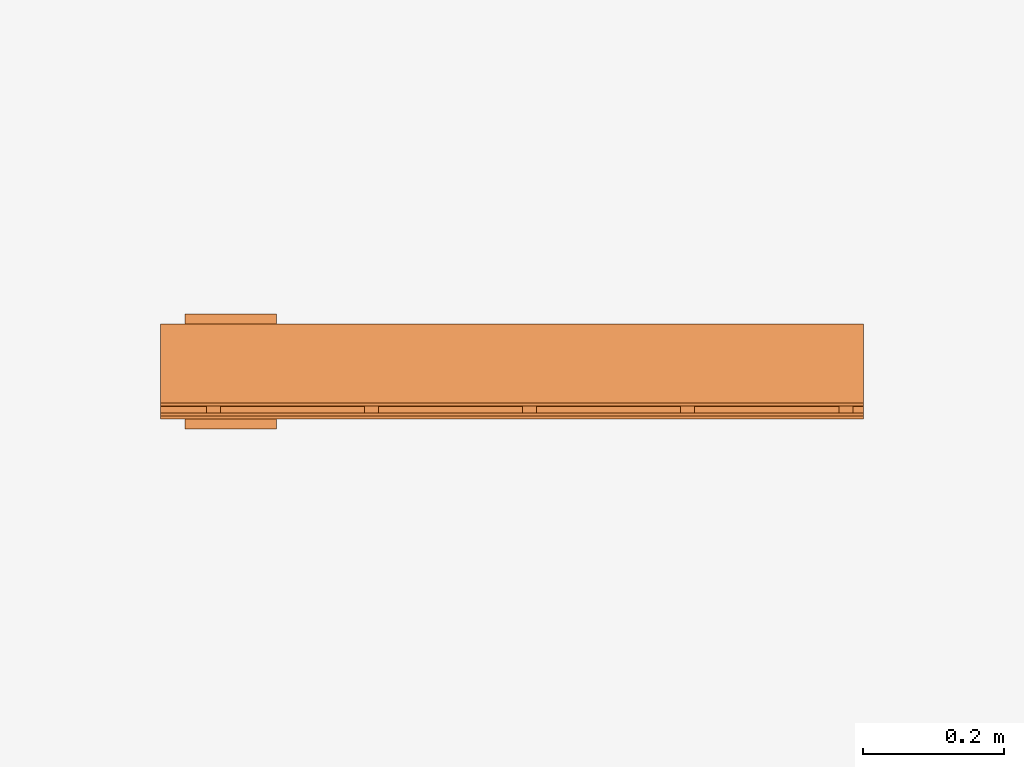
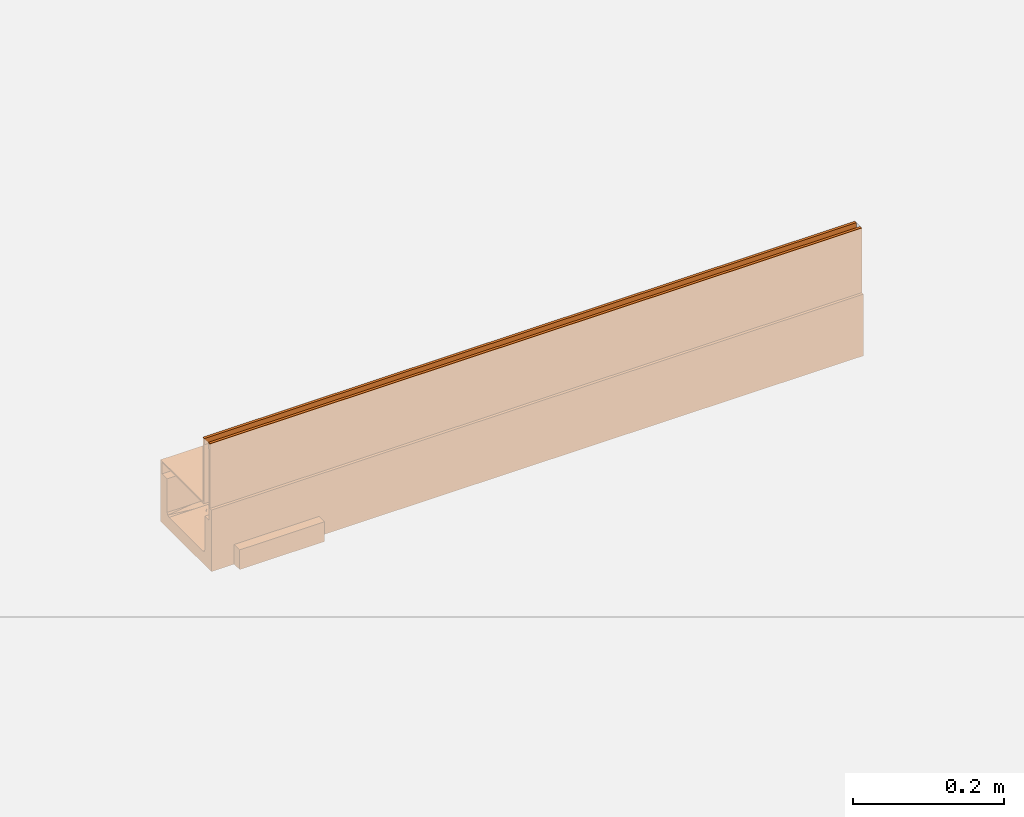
# One storey, part 2 of 2: 1 proxy.
"""IFC2X3 building model written with IfcOpenShell, lengths in millimetres."""

from ifc_helpers import new_model, entity, si_unit, converted_unit, direction, frame, origin, place, context, subcontext, project, spatial, faceted_brep, source, transform, mapped, material, material_list, element, save


model = new_model("IFC2X3")

# Units and contexts
model_context = context("Model", 3, precision=1e-06, world=origin(), true_north=direction((2.0, 6.12303176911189e-17, 1.0)))
context_of_model = context(None, 3, precision=1e-06, world=origin(), true_north=direction((2.0, 6.12303176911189e-17, 1.0)))
body_context = subcontext(model_context, "Body", "Model", "MODEL_VIEW")
ifc_project = project(units=[si_unit("LENGTHUNIT", "METRE", prefix="MILLI"), si_unit("AREAUNIT", "SQUARE_METRE", prefix="MILLI"), si_unit("VOLUMEUNIT", "CUBIC_METRE", prefix="MILLI"), converted_unit("PLANEANGLEUNIT", "DEGREE", entity("IfcRatioMeasure", 0.0174532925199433), si_unit("PLANEANGLEUNIT", "RADIAN"), dimensions=[0, 0, 0, 0, 0, 0, 0]), si_unit("TIMEUNIT", "SECOND")], contexts=[model_context, context_of_model])

# Site, building, storey
site_placement = place(None, origin())
site = spatial("IfcSite", under=ifc_project, at=site_placement, Name="Default", CompositionType="ELEMENT")
building_placement = place(site_placement, origin())
building = spatial("IfcBuilding", under=site, at=building_placement, CompositionType="ELEMENT")
storey_placement = place(building_placement, origin())
storey = spatial("IfcBuildingStorey", under=building, at=storey_placement, Name="Level 1", CompositionType="ELEMENT", Elevation=0.0)

# Proxy
ifc_material_1 = material(Name="Steel, Galvanized")
ifc_material_2 = material(Name="Plastic, Opaque Black")
ifc_material_3 = material(Name="Vienite® Synthetic Resin Concrete")
ifc_material_list = material_list([ifc_material_1, ifc_material_2, ifc_material_3])
shared_shape = source(origin(), body_context, "Body", "Brep", [
    faceted_brep([(63.249999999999, 15.0, -107.0), (63.249999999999, 17.0, -109.0), (63.249999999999, 33.0, -109.0), (63.249999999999, 35.0, -107.0), (63.249999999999, 17.0, -123.499999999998), (63.249999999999, 15.0, -125.499999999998), (63.249999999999, 33.0, -123.499999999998), (63.249999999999, 35.0, -125.499999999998), (-61.250000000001, 15.0, -125.499999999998), (-61.250000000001, 17.0, -123.499999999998), (-61.250000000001, 33.0, -123.499999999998), (-61.250000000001, 35.0, -125.499999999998), (-61.250000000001, 17.0, -109.0), (-61.250000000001, 15.0, -107.0), (-61.250000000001, 33.0, -109.0), (-61.250000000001, 35.0, -107.0)], [[[0, 1, 2, 3]], [[4, 1, 0, 5]], [[3, 2, 6, 7]], [[6, 4, 5, 7]], [[8, 9, 10, 11]], [[12, 9, 8, 13]], [[11, 10, 14, 15]], [[14, 12, 13, 15]], [[5, 0, 13, 8]], [[7, 5, 8, 11]], [[3, 7, 11, 15]], [[0, 3, 15, 13]], [[1, 4, 9, 12]], [[14, 2, 1, 12]], [[6, 2, 14, 10]], [[9, 4, 6, 10]]]),
    faceted_brep([(-47.2500000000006, 0.0, -10.0), (-47.2500000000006, 0.0, -107.0), (-45.2500000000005, 0.0, -105.0), (-45.2500000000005, 0.0, 0.0), (-49.2500000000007, 0.0, 0.0), (-49.2500000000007, 0.0, -10.0), (63.2499999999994, 0.0, -107.0), (63.2499999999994, 0.0, -105.0), (-45.2500000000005, 1000.0, -105.0), (63.2499999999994, 1000.0, -105.0), (63.2499999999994, 1000.0, -107.0), (-47.2500000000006, 1000.0, -107.0), (-47.2500000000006, 1000.0, -10.0), (-45.2500000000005, 1000.0, 0.0), (-49.2500000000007, 1000.0, -10.0), (-49.2500000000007, 1000.0, 0.0)], [[[0, 1, 2, 3]], [[4, 5, 0, 3]], [[6, 7, 2, 1]], [[8, 9, 10, 11]], [[12, 13, 8, 11]], [[12, 14, 15, 13]], [[0, 5, 14, 12]], [[11, 1, 0, 12]], [[6, 1, 11, 10]], [[9, 7, 6, 10]], [[8, 2, 7, 9]], [[3, 2, 8, 13]], [[15, 4, 3, 13]], [[5, 4, 15, 14]]]),
    faceted_brep([(-59.2500000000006, 1000.0, 0.0), (-59.2500000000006, 1000.0, -10.0), (-61.2500000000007, 1000.0, -10.0), (-63.2500000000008, 1000.0, 0.0), (-63.2500000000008, 1000.0, -125.499999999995), (-61.2500000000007, 1000.0, -125.499999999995), (-61.2500000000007, 0.0, -10.0), (-63.2500000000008, 0.0, 0.0), (-63.2500000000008, 0.0, -125.499999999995), (-61.2500000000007, 0.0, -125.499999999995), (-59.2500000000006, 0.0, 0.0), (-59.2500000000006, 0.0, -10.0)], [[[0, 1, 2, 3]], [[4, 3, 2, 5]], [[6, 7, 8, 9]], [[10, 7, 6, 11]], [[9, 8, 4, 5]], [[6, 9, 5, 2]], [[11, 6, 2, 1]], [[10, 11, 1, 0]], [[3, 7, 10, 0]], [[4, 8, 7, 3]]]),
    faceted_brep([(63.2499999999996, 465.0, -107.0), (63.2499999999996, 467.0, -109.0), (63.2499999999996, 483.0, -109.0), (63.2499999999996, 485.0, -107.0), (63.2499999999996, 467.0, -123.499999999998), (63.2499999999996, 465.0, -125.499999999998), (63.2499999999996, 483.0, -123.499999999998), (63.2499999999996, 485.0, -125.499999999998), (-61.2500000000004, 465.0, -125.499999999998), (-61.2500000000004, 467.0, -123.499999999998), (-61.2500000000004, 483.0, -123.499999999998), (-61.2500000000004, 485.0, -125.499999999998), (-61.2500000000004, 467.0, -109.0), (-61.2500000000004, 465.0, -107.0), (-61.2500000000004, 483.0, -109.0), (-61.2500000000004, 485.0, -107.0)], [[[0, 1, 2, 3]], [[4, 1, 0, 5]], [[3, 2, 6, 7]], [[6, 4, 5, 7]], [[8, 9, 10, 11]], [[12, 9, 8, 13]], [[11, 10, 14, 15]], [[14, 12, 13, 15]], [[5, 0, 13, 8]], [[7, 5, 8, 11]], [[3, 7, 11, 15]], [[0, 3, 15, 13]], [[1, 4, 9, 12]], [[2, 1, 12, 14]], [[6, 2, 14, 10]], [[4, 6, 10, 9]]]),
    faceted_brep([(63.2499999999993, 240.0, -107.0), (63.2499999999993, 242.0, -109.0), (63.2499999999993, 258.0, -109.0), (63.2499999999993, 260.0, -107.0), (63.2499999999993, 242.0, -123.499999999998), (63.2499999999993, 240.0, -125.499999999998), (63.2499999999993, 258.0, -123.499999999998), (63.2499999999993, 260.0, -125.499999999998), (-61.2500000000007, 240.0, -125.499999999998), (-61.2500000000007, 242.0, -123.499999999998), (-61.2500000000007, 258.0, -123.499999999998), (-61.2500000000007, 260.0, -125.499999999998), (-61.2500000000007, 242.0, -109.0), (-61.2500000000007, 240.0, -107.0), (-61.2500000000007, 258.0, -109.0), (-61.2500000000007, 260.0, -107.0)], [[[0, 1, 2, 3]], [[4, 1, 0, 5]], [[3, 2, 6, 7]], [[6, 4, 5, 7]], [[8, 9, 10, 11]], [[12, 9, 8, 13]], [[11, 10, 14, 15]], [[14, 12, 13, 15]], [[5, 0, 13, 8]], [[7, 5, 8, 11]], [[3, 7, 11, 15]], [[0, 3, 15, 13]], [[1, 4, 9, 12]], [[2, 1, 12, 14]], [[6, 2, 14, 10]], [[4, 6, 10, 9]]]),
    faceted_brep([(63.2500000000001, 915.0, -107.0), (63.2500000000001, 917.0, -109.0), (63.2500000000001, 933.0, -109.0), (63.2500000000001, 935.0, -107.0), (63.2500000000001, 917.0, -123.499999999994), (63.2500000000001, 915.0, -125.499999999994), (63.2500000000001, 933.0, -123.499999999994), (63.2500000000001, 935.0, -125.499999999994), (-61.2499999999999, 915.0, -125.499999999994), (-61.2499999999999, 917.0, -123.499999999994), (-61.2499999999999, 933.0, -123.499999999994), (-61.2499999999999, 935.0, -125.499999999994), (-61.2499999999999, 917.0, -109.0), (-61.2499999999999, 915.0, -107.0), (-61.2499999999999, 933.0, -109.0), (-61.2499999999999, 935.0, -107.0)], [[[0, 1, 2, 3]], [[4, 1, 0, 5]], [[3, 2, 6, 7]], [[6, 4, 5, 7]], [[8, 9, 10, 11]], [[12, 9, 8, 13]], [[11, 10, 14, 15]], [[14, 12, 13, 15]], [[5, 0, 13, 8]], [[11, 7, 5, 8]], [[3, 7, 11, 15]], [[13, 0, 3, 15]], [[1, 4, 9, 12]], [[2, 1, 12, 14]], [[6, 2, 14, 10]], [[4, 6, 10, 9]]]),
    faceted_brep([(63.2499999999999, 690.0, -107.0), (63.2499999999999, 692.0, -109.0), (63.2499999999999, 708.0, -109.0), (63.2499999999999, 710.0, -107.0), (63.2499999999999, 692.0, -123.499999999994), (63.2499999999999, 690.0, -125.499999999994), (63.2499999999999, 708.0, -123.499999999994), (63.2499999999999, 710.0, -125.499999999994), (-61.2500000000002, 690.0, -125.499999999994), (-61.2500000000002, 692.0, -123.499999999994), (-61.2500000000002, 708.0, -123.499999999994), (-61.2500000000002, 710.0, -125.499999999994), (-61.2500000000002, 692.0, -109.0), (-61.2500000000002, 690.0, -107.0), (-61.2500000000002, 708.0, -109.0), (-61.2500000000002, 710.0, -107.0)], [[[0, 1, 2, 3]], [[4, 1, 0, 5]], [[3, 2, 6, 7]], [[6, 4, 5, 7]], [[8, 9, 10, 11]], [[12, 9, 8, 13]], [[11, 10, 14, 15]], [[14, 12, 13, 15]], [[5, 0, 13, 8]], [[11, 7, 5, 8]], [[3, 7, 11, 15]], [[13, 0, 3, 15]], [[1, 4, 9, 12]], [[2, 1, 12, 14]], [[6, 2, 14, 10]], [[4, 6, 10, 9]]]),
    faceted_brep([(30.0, 951.961524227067, -205.0), (42.4264068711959, 942.426406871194, -205.0), (27.500000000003, 947.631397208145, -205.0), (14.2350474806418, 953.1259204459, -205.0), (0.0, 955.0, -205.0), (15.5291427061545, 957.955549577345, -205.0), (0.0, 960.0, -205.0), (-14.2350474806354, 953.1259204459, -205.0), (38.8908729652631, 938.890872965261, -205.0), (55.0, 900.0, -205.0), (53.1259204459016, 914.23504748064, -205.0), (57.955549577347, 915.529142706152, -205.0), (60.0, 900.0, -205.0), (51.9615242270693, 930.0, -205.0), (47.631397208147, 927.500000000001, -205.0), (-15.529142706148, 957.955549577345, -205.0), (-27.4999999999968, 947.631397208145, -205.0), (-38.8908729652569, 938.890872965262, -205.0), (-42.4264068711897, 942.426406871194, -205.0), (-30.0, 951.961524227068, -205.0), (-51.9615242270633, 930.0, -205.0), (-47.631397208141, 927.500000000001, -205.0), (-53.1259204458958, 914.23504748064, -205.0), (-55.0, 900.0, -205.0), (-57.9555495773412, 915.529142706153, -205.0), (-60.0, 900.0, -205.0), (-53.1259204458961, 885.764952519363, -205.0), (53.1259204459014, 885.764952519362, -205.0), (57.9555495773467, 884.470857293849, -205.0), (47.6313972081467, 872.500000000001, -205.0), (51.9615242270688, 870.0, -205.0), (38.8908729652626, 861.109127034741, -205.0), (42.4264068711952, 857.573593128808, -205.0), (27.5000000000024, 852.368602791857, -205.0), (30.0, 848.038475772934, -205.0), (14.235047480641, 846.874079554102, -205.0), (15.5291427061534, 842.044450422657, -205.0), (0.0, 845.0, -205.0), (0.0, 840.0, -205.0), (-14.2350474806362, 846.874079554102, -205.0), (-42.4264068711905, 857.573593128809, -205.0), (-51.9615242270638, 870.0, -205.0), (-47.6313972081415, 872.500000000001, -205.0), (-38.8908729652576, 861.109127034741, -205.0), (-57.9555495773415, 884.47085729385, -205.0), (-15.529142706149, 842.044450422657, -205.0), (-27.4999999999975, 852.368602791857, -205.0), (-30.0, 848.038475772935, -205.0), (30.0, 848.038475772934, -185.0), (42.4264068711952, 857.573593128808, -185.0), (27.5000000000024, 852.368602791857, -185.0), (14.235047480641, 846.874079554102, -185.0), (0.0, 845.0, -185.0), (15.5291427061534, 842.044450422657, -185.0), (0.0, 840.0, -185.0), (-14.2350474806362, 846.874079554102, -185.0), (38.8908729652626, 861.109127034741, -185.0), (55.0, 900.0, -185.0), (53.1259204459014, 885.764952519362, -185.0), (57.9555495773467, 884.470857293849, -185.0), (60.0, 900.0, -185.0), (51.9615242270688, 870.0, -185.0), (47.6313972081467, 872.500000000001, -185.0), (-15.529142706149, 842.044450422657, -185.0), (-27.4999999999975, 852.368602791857, -185.0), (-38.8908729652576, 861.109127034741, -185.0), (-42.4264068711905, 857.573593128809, -185.0), (-30.0, 848.038475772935, -185.0), (-51.9615242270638, 870.0, -185.0), (-47.6313972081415, 872.500000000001, -185.0), (-53.1259204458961, 885.764952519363, -185.0), (-55.0, 900.0, -185.0), (-57.9555495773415, 884.47085729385, -185.0), (-60.0, 900.0, -185.0), (-53.1259204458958, 914.23504748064, -185.0), (53.1259204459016, 914.23504748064, -185.0), (57.955549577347, 915.529142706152, -185.0), (47.631397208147, 927.500000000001, -185.0), (51.9615242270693, 930.0, -185.0), (38.8908729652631, 938.890872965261, -185.0), (42.4264068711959, 942.426406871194, -185.0), (27.500000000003, 947.631397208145, -185.0), (30.0, 951.961524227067, -185.0), (14.2350474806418, 953.1259204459, -185.0), (15.5291427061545, 957.955549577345, -185.0), (0.0, 955.0, -185.0), (0.0, 960.0, -185.0), (-14.2350474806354, 953.1259204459, -185.0), (-42.4264068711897, 942.426406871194, -185.0), (-51.9615242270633, 930.0, -185.0), (-47.631397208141, 927.500000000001, -185.0), (-38.8908729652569, 938.890872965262, -185.0), (-57.9555495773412, 915.529142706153, -185.0), (-15.529142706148, 957.955549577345, -185.0), (-27.4999999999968, 947.631397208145, -185.0), (-30.0, 951.961524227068, -185.0)], [[[0, 1, 2, 3]], [[3, 4, 5, 0]], [[6, 5, 4, 7]], [[2, 1, 8]], [[9, 10, 11, 12]], [[13, 11, 10, 14]], [[13, 14, 8, 1]], [[15, 6, 7, 16]], [[17, 18, 19, 16]], [[16, 19, 15]], [[20, 18, 21, 22]], [[21, 18, 17]], [[22, 23, 24, 20]], [[25, 24, 23, 26]], [[27, 12, 28, 29]], [[30, 31, 29, 28]], [[31, 30, 32, 33]], [[33, 32, 34, 35]], [[36, 37, 35, 34]], [[37, 36, 38, 39]], [[40, 41, 42, 43]], [[42, 41, 44]], [[44, 25, 26, 42]], [[39, 38, 45, 46]], [[47, 40, 43, 46]], [[47, 46, 45]], [[27, 9, 12]], [[48, 49, 50, 51]], [[51, 52, 53, 48]], [[54, 53, 52, 55]], [[50, 49, 56]], [[57, 58, 59, 60]], [[61, 59, 58, 62]], [[61, 62, 56, 49]], [[63, 54, 55, 64]], [[65, 66, 67, 64]], [[64, 67, 63]], [[68, 66, 69, 70]], [[69, 66, 65]], [[70, 71, 72, 68]], [[73, 72, 71, 74]], [[75, 60, 76, 77]], [[78, 79, 77, 76]], [[79, 78, 80, 81]], [[81, 80, 82, 83]], [[84, 85, 83, 82]], [[85, 84, 86, 87]], [[88, 89, 90, 91]], [[90, 89, 92]], [[92, 73, 74, 90]], [[87, 86, 93, 94]], [[95, 88, 91, 94]], [[95, 94, 93]], [[75, 57, 60]], [[12, 11, 76, 60]], [[11, 13, 78, 76]], [[1, 0, 82, 80]], [[13, 1, 80, 78]], [[0, 5, 84, 82]], [[86, 84, 5, 6]], [[6, 15, 93, 86]], [[15, 19, 95, 93]], [[18, 20, 89, 88]], [[19, 18, 88, 95]], [[20, 24, 92, 89]], [[73, 92, 24, 25]], [[25, 44, 72, 73]], [[44, 41, 68, 72]], [[40, 47, 67, 66]], [[41, 40, 66, 68]], [[47, 45, 63, 67]], [[54, 63, 45, 38]], [[38, 36, 53, 54]], [[36, 34, 48, 53]], [[32, 30, 61, 49]], [[34, 32, 49, 48]], [[30, 28, 59, 61]], [[60, 59, 28, 12]], [[27, 58, 57, 9]], [[29, 62, 58, 27]], [[33, 50, 56, 31]], [[31, 56, 62, 29]], [[35, 51, 50, 33]], [[51, 35, 37, 52]], [[39, 55, 52, 37]], [[46, 64, 55, 39]], [[42, 69, 65, 43]], [[43, 65, 64, 46]], [[26, 70, 69, 42]], [[70, 26, 23, 71]], [[22, 74, 71, 23]], [[21, 90, 74, 22]], [[16, 94, 91, 17]], [[17, 91, 90, 21]], [[7, 87, 94, 16]], [[87, 7, 4, 85]], [[3, 83, 85, 4]], [[2, 81, 83, 3]], [[14, 77, 79, 8]], [[8, 79, 81, 2]], [[10, 75, 77, 14]], [[75, 10, 9, 57]]]),
    faceted_brep([(-34.1631531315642, 850.730902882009, -185.0), (-45.0, 860.368856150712, -185.0), (-45.0, 806.595869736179, -185.0), (-45.0, 752.822729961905, -185.0), (34.1631531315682, 850.730902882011, -185.0), (21.3303487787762, 843.974681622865, -185.0), (45.0, 0.0, -185.0), (45.0, 39.0384400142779, -185.0), (-21.3303487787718, 843.974681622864, -185.0), (-45.0, 0.0, -185.0), (-7.25133424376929, 840.494919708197, -185.0), (7.25133424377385, 840.494919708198, -185.0), (-82.0, 835.0, -173.0), (-67.499999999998, 835.0, -173.0), (-67.4999999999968, 965.0, -173.0), (-82.0, 965.0, -173.0), (-58.2655641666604, 914.377277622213, -185.0), (-53.165298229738, 927.866114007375, -185.0), (-45.0, 939.741395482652, -185.0), (-53.1652982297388, 872.244137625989, -185.0), (-58.2655641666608, 885.732974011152, -185.0), (-60.0, 900.055125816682, -185.0), (-45.0, 900.055125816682, -185.0), (-67.4999999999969, 1000.0, -105.0), (-63.2499999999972, 1000.0, -105.0), (-63.2499999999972, 1000.0, -125.500000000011), (-67.499999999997, 1000.0, -205.0), (-50.0, 1000.0, -125.500000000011), (-50.0, 1000.0, -180.0), (-48.5355339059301, 1000.0, -183.535533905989), (-45.0, 1000.0, -185.0), (45.0, 1000.0, -185.0), (67.5000000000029, 1000.0, -205.0), (50.0, 1000.0, -180.0), (50.0, 1000.0, -125.500000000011), (63.2500000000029, 1000.0, -125.500000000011), (63.2500000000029, 1000.0, -105.0), (67.5000000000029, 1000.0, -105.0), (48.5355339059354, 1000.0, -183.535533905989), (67.4999999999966, 0.0, -105.0), (63.2499999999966, 0.0, -105.0), (63.2499999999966, 0.0, -125.500000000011), (67.4999999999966, 0.0, -205.0), (50.0, 0.0, -125.500000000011), (50.0, 0.0, -180.0), (48.5355339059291, 0.0, -183.535533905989), (-67.5000000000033, 0.0, -205.0), (-50.0, 0.0, -180.0), (-50.0, 0.0, -125.500000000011), (-63.2500000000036, 0.0, -125.500000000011), (-63.2500000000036, 0.0, -105.0), (-67.5000000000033, 0.0, -105.0), (-48.5355339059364, 0.0, -183.535533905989), (-50.0, 39.0384441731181, -180.0), (-45.0, 960.961557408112, -185.0), (-50.0, 960.961555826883, -180.0), (-50.0, 937.499994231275, -180.0), (-50.0, 906.249991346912, -180.0), (-50.0, 875.000003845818, -180.0), (-45.0, 39.0386424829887, -185.0), (-45.0, 430.184504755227, -185.0), (-45.0, 483.957644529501, -185.0), (-50.0, 468.750012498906, -180.0), (-50.0, 437.500009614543, -180.0), (-50.0, 781.250010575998, -180.0), (-50.0, 812.50001346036, -180.0), (-45.0, 591.503617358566, -185.0), (-50.0, 624.999996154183, -180.0), (-50.0, 593.74999326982, -180.0), (-50.0, 562.499990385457, -180.0), (-50.0, 750.000007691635, -180.0), (-50.0, 718.750004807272, -180.0), (-50.0, 187.49998653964, -180.0), (-45.0, 161.319112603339, -185.0), (-45.0, 215.092252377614, -185.0), (-50.0, 218.749989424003, -180.0), (-45.0, 645.27675713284, -185.0), (-50.0, 687.500001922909, -180.0), (-50.0, 656.249999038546, -180.0), (-50.0, 62.5000057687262, -180.0), (-45.0, 73.2924610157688, -185.0), (-50.0, 93.750008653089, -180.0), (-45.0, 537.730630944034, -185.0), (-50.0, 531.249987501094, -180.0), (-50.0, 500.0, -180.0), (-45.0, 322.63837856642, -185.0), (-50.0, 312.499998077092, -180.0), (-50.0, 281.249995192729, -180.0), (-45.0, 376.411364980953, -185.0), (-50.0, 406.25000673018, -180.0), (-50.0, 375.000003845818, -180.0), (-50.0, 343.750000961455, -180.0), (-45.0, 107.546126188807, -185.0), (-50.0, 124.999996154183, -180.0), (-50.0, 249.999992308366, -180.0), (-45.0, 268.865392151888, -185.0), (-50.0, 156.249983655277, -180.0), (-50.0, 843.750016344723, -180.0), (-45.0, 699.049743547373, -185.0), (-45.0, 564.617200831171, -185.0), (-21.3303487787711, 956.135570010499, -185.0), (-7.25133424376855, 959.615331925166, -185.0), (-34.1631531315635, 949.379348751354, -185.0), (7.25133424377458, 959.615331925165, -185.0), (21.3303487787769, 956.135570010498, -185.0), (34.1631531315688, 949.379348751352, -185.0), (45.0, 939.741395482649, -185.0), (45.0, 960.961557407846, -185.0), (50.0, 93.749993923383, -180.0), (50.0, 124.999991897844, -180.0), (45.0, 107.546105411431, -185.0), (45.0, 73.2922727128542, -185.0), (50.0, 875.000008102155, -180.0), (45.0, 900.055125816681, -185.0), (45.0, 860.368856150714, -185.0), (50.0, 843.750010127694, -180.0), (45.0, 806.595801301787, -185.0), (50.0, 812.500012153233, -180.0), (50.0, 960.961561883, -180.0), (50.0, 937.500004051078, -180.0), (50.0, 156.249989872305, -180.0), (45.0, 161.319160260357, -185.0), (50.0, 593.749993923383, -180.0), (50.0, 624.999991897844, -180.0), (45.0, 591.503590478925, -185.0), (50.0, 562.499995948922, -180.0), (50.0, 250.0, -180.0), (45.0, 268.86526995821, -185.0), (45.0, 215.092215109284, -185.0), (50.0, 218.750002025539, -180.0), (45.0, 645.27664104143, -185.0), (50.0, 656.249989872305, -180.0), (50.0, 687.499987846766, -180.0), (45.0, 752.822746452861, -185.0), (50.0, 750.0, -180.0), (50.0, 781.249997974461, -180.0), (50.0, 437.500004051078, -180.0), (50.0, 468.750002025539, -180.0), (45.0, 430.184425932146, -185.0), (50.0, 406.250006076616, -180.0), (50.0, 500.0, -180.0), (50.0, 531.249997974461, -180.0), (45.0, 537.730535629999, -185.0), (45.0, 483.957480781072, -185.0), (45.0, 699.049691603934, -185.0), (50.0, 718.750002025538, -180.0), (45.0, 376.411371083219, -185.0), (50.0, 375.000008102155, -180.0), (50.0, 906.250006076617, -180.0), (50.0, 62.4999959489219, -180.0), (50.0, 281.249997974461, -180.0), (45.0, 322.638320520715, -185.0), (50.0, 343.750010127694, -180.0), (50.0, 187.499987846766, -180.0), (50.0, 39.0384381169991, -180.0), (50.0, 312.500012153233, -180.0), (67.5000000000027, 965.0, -173.0), (67.5000000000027, 965.0, -205.0), (67.5000000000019, 835.0, -173.0), (67.5000000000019, 835.0, -205.0), (15.5291427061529, 958.010675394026, -205.0), (0.0, 960.055125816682, -205.0), (30.0, 952.016650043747, -205.0), (51.9615242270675, 930.055125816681, -205.0), (82.0, 965.0, -205.0), (57.9555495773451, 915.584268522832, -205.0), (42.4264068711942, 942.481532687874, -205.0), (60.0, 900.055125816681, -205.0), (82.0, 835.0, -205.0), (-82.0, 965.0, -205.0), (-67.4999999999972, 965.0, -205.0), (-51.9615242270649, 930.055125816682, -205.0), (-57.9555495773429, 915.584268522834, -205.0), (-30.0, 952.016650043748, -205.0), (-15.5291427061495, 958.010675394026, -205.0), (-42.4264068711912, 942.481532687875, -205.0), (-60.0, 900.055125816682, -205.0), (-82.0, 835.0, -205.0), (57.9555495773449, 884.52598311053, -205.0), (42.4264068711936, 857.628718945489, -205.0), (51.9615242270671, 870.055125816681, -205.0), (30.0, 848.093601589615, -205.0), (15.5291427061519, 842.099576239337, -205.0), (0.0, 840.055125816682, -205.0), (-42.4264068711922, 857.628718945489, -205.0), (-30.0, 848.093601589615, -205.0), (-67.4999999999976, 835.0, -205.0), (-57.9555495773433, 884.525983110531, -205.0), (-51.9615242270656, 870.055125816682, -205.0), (-15.5291427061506, 842.099576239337, -205.0), (82.0, 835.0, -173.0), (82.0, 965.0, -173.0), (53.1651104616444, 927.866472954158, -185.0), (58.2655781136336, 914.377220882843, -185.0), (60.0, 900.055125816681, -185.0), (58.2655781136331, 885.733030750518, -185.0), (53.1651104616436, 872.243778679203, -185.0)], [[[0, 1, 2, 3]], [[4, 5, 6, 7]], [[8, 9, 10]], [[9, 8, 0]], [[6, 11, 10, 9]], [[11, 6, 5]], [[12, 13, 14, 15]], [[16, 17, 18, 19]], [[19, 20, 21, 16]], [[19, 18, 22, 1]], [[23, 24, 25, 26]], [[25, 27, 28, 26]], [[26, 28, 29]], [[29, 30, 26]], [[26, 30, 31, 32]], [[33, 34, 35, 32]], [[35, 36, 37, 32]], [[31, 38, 32]], [[33, 32, 38]], [[39, 40, 41, 42]], [[41, 43, 44, 42]], [[42, 44, 45]], [[45, 6, 42]], [[42, 6, 9, 46]], [[47, 48, 49, 46]], [[49, 50, 51, 46]], [[9, 52, 46]], [[47, 46, 52]], [[24, 23, 51, 50]], [[49, 25, 24, 50]], [[48, 27, 25, 49]], [[47, 53, 27, 48]], [[18, 54, 55, 56]], [[22, 57, 58, 1]], [[52, 9, 59]], [[60, 61, 62, 63]], [[53, 47, 52]], [[64, 3, 2, 65]], [[66, 67, 68, 69]], [[70, 71, 3, 64]], [[72, 73, 74, 75]], [[76, 77, 78, 67]], [[79, 80, 81]], [[82, 83, 84, 61]], [[85, 86, 87]], [[88, 89, 90, 91]], [[89, 88, 60, 63]], [[85, 88, 91, 86]], [[92, 93, 81, 80]], [[87, 94, 95, 85]], [[73, 96, 93, 92]], [[53, 52, 59]], [[79, 53, 59, 80]], [[97, 65, 2, 1]], [[54, 30, 29]], [[29, 28, 55]], [[55, 54, 29]], [[98, 3, 71, 77]], [[76, 98, 77]], [[94, 75, 74, 95]], [[69, 82, 99, 66]], [[57, 22, 18, 56]], [[1, 58, 97]], [[83, 82, 69]], [[73, 72, 96]], [[61, 84, 62]], [[76, 67, 66]], [[30, 100, 101]], [[102, 100, 30, 54]], [[101, 103, 31, 30]], [[31, 103, 104]], [[105, 106, 107, 31]], [[104, 105, 31]], [[108, 109, 110, 111]], [[112, 113, 114, 115]], [[7, 6, 45]], [[116, 117, 115, 114]], [[38, 107, 118]], [[118, 107, 106, 119]], [[109, 120, 121, 110]], [[122, 123, 124, 125]], [[126, 127, 128, 129]], [[130, 123, 131, 132]], [[133, 134, 135, 116]], [[136, 137, 138, 139]], [[140, 141, 142, 143]], [[133, 144, 145, 134]], [[137, 140, 143, 138]], [[146, 147, 139, 138]], [[106, 113, 148, 119]], [[149, 108, 111, 7]], [[150, 151, 127, 126]], [[146, 151, 152, 147]], [[128, 121, 153, 129]], [[149, 7, 154]], [[44, 154, 45]], [[45, 154, 7]], [[118, 33, 38]], [[38, 31, 107]], [[144, 130, 132, 145]], [[125, 124, 142, 141]], [[130, 124, 123]], [[155, 152, 151, 150]], [[135, 117, 116]], [[120, 153, 121]], [[113, 112, 148]], [[43, 34, 33, 118]], [[35, 34, 43, 41]], [[40, 36, 35, 41]], [[39, 37, 36, 40]], [[32, 37, 156, 157]], [[156, 37, 158]], [[39, 42, 158, 37]], [[42, 159, 158]], [[32, 160, 161, 26]], [[32, 157, 162, 160]], [[163, 157, 164, 165]], [[166, 162, 157]], [[163, 166, 157]], [[167, 165, 164, 168]], [[169, 170, 171, 172]], [[173, 170, 26, 174]], [[174, 26, 161]], [[173, 175, 170]], [[169, 172, 176, 177]], [[175, 171, 170]], [[178, 167, 168]], [[159, 179, 180, 168]], [[178, 168, 180]], [[181, 159, 182]], [[181, 179, 159]], [[183, 182, 159, 42]], [[184, 185, 186]], [[177, 187, 188, 186]], [[184, 186, 188]], [[186, 189, 183, 46]], [[183, 42, 46]], [[186, 185, 189]], [[187, 177, 176]], [[26, 170, 14, 23]], [[23, 14, 13, 51]], [[13, 186, 46, 51]], [[156, 158, 190, 191]], [[190, 168, 164, 191]], [[159, 168, 190, 158]], [[164, 157, 156, 191]], [[14, 170, 169, 15]], [[12, 177, 186, 13]], [[15, 169, 177, 12]], [[192, 193, 194, 195]], [[114, 113, 192, 195]], [[195, 196, 114]], [[167, 193, 165]], [[165, 192, 163]], [[162, 166, 105]], [[106, 166, 163]], [[160, 162, 104]], [[193, 192, 165]], [[167, 194, 193]], [[162, 105, 104]], [[105, 166, 106]], [[163, 192, 106]], [[160, 104, 103]], [[103, 161, 160]], [[161, 101, 174]], [[174, 100, 173]], [[171, 175, 18]], [[17, 172, 171]], [[102, 175, 173]], [[172, 16, 176]], [[100, 102, 173]], [[174, 101, 100]], [[172, 17, 16]], [[17, 171, 18]], [[175, 102, 18]], [[176, 16, 21]], [[103, 101, 161]], [[176, 20, 187]], [[187, 19, 188]], [[185, 184, 0]], [[1, 184, 188]], [[189, 185, 8]], [[20, 19, 187]], [[176, 21, 20]], [[185, 0, 8]], [[0, 184, 1]], [[188, 19, 1]], [[189, 8, 10]], [[10, 183, 189]], [[183, 11, 182]], [[182, 5, 181]], [[180, 179, 114]], [[196, 178, 180]], [[4, 179, 181]], [[178, 195, 167]], [[5, 4, 181]], [[182, 11, 5]], [[178, 196, 195]], [[196, 180, 114]], [[179, 4, 114]], [[167, 195, 194]], [[10, 11, 183]], [[0, 3, 98, 76]], [[0, 76, 66, 99]], [[0, 99, 82, 61]], [[0, 61, 60, 88]], [[0, 88, 85, 95]], [[0, 95, 74, 73]], [[0, 73, 92, 80]], [[0, 80, 59, 9]], [[4, 7, 111, 110]], [[4, 110, 121, 128]], [[4, 128, 127, 151]], [[4, 151, 146, 138]], [[4, 138, 143, 142]], [[4, 142, 124, 130]], [[4, 130, 144, 133]], [[4, 133, 116, 114]], [[27, 53, 79, 81]], [[27, 81, 93, 96]], [[27, 96, 72, 75]], [[27, 75, 94, 87]], [[27, 87, 86, 91]], [[27, 91, 90, 89]], [[27, 89, 63, 62]], [[27, 62, 84, 83]], [[27, 83, 69, 68]], [[27, 68, 67, 78]], [[27, 78, 77, 71]], [[27, 71, 70, 64]], [[27, 64, 65, 97]], [[27, 97, 58, 57]], [[27, 57, 56, 55]], [[27, 55, 28]], [[102, 54, 18]], [[43, 118, 119, 148]], [[43, 148, 112, 115]], [[43, 115, 117, 135]], [[43, 135, 134, 145]], [[43, 145, 132, 131]], [[43, 131, 123, 122]], [[43, 122, 125, 141]], [[43, 141, 140, 137]], [[43, 137, 136, 139]], [[43, 139, 147, 152]], [[43, 152, 155, 150]], [[43, 150, 126, 129]], [[43, 129, 153, 120]], [[43, 120, 109, 108]], [[43, 108, 149, 154]], [[43, 154, 44]], [[192, 113, 106]]]),
])
proxy_placement = place(storey_placement, frame((143.656586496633, 99.9218925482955, 0.0), z_axis=(0.0, 0.0, 1.0), x_axis=(0.0, 1.0, 0.0)))
element("IfcBuildingElementProxy", 1, at=proxy_placement, inside=storey, material=ifc_material_list, Name="Civil-Drainage-Channel-ACO-MultiDrain-M100D-Brickslot-Channel-System:23111 - No 0100V Constant Depth Outlet Shallow Channel - 1000mm LG - Invert Depth 80mm:23111 - No 0100V Constant Depth Outlet Shallow Channel - 1000mm LG - Invert Depth 80mm", ObjectType="23111 - No 0100V Constant Depth Outlet Shallow Channel - 1000mm LG - Invert Depth 80mm", CompositionType="ELEMENT", context=body_context, shape_type="MappedRepresentation", body=[
    mapped(shared_shape, transform((0.0, 0.0, 0.0), scale=1.0)),
])

save(model, "model.ifc")
